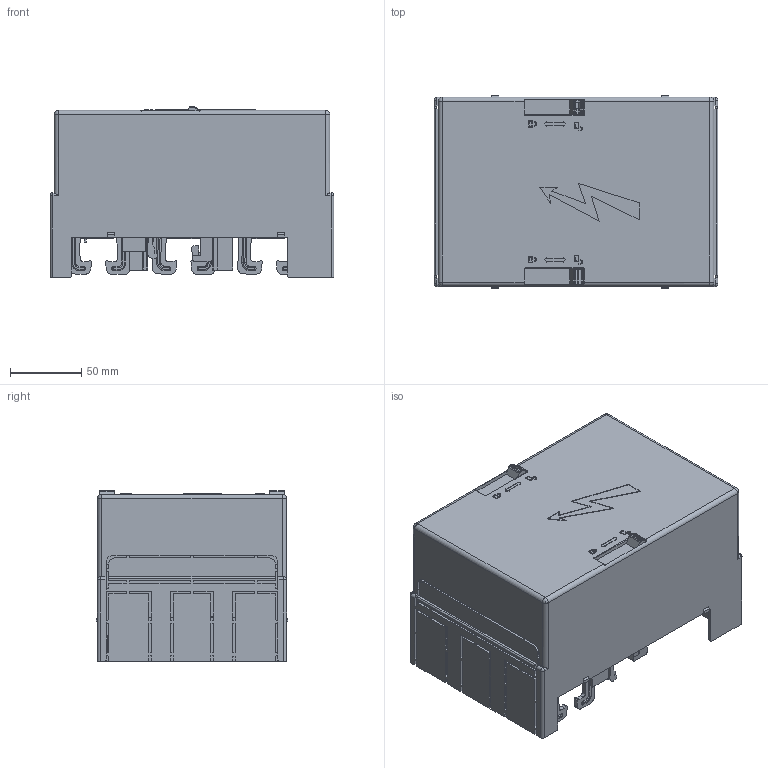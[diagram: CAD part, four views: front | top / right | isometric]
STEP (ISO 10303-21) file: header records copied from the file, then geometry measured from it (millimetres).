
FILE_DESCRIPTION (( 'STEP AP214' ), '1' );
FILE_NAME ('54754-54199珨欴.STEP', '2020-08-05T03:22:40', ( '' ), ( '' ), 'SwSTEP 2.0', 'SolidWorks 2017', '' );
FILE_SCHEMA (( 'AUTOMOTIVE_DESIGN' ));
Length unit declared in the file: millimetre
Products named in the file (1): 54754-54199珨欴
Bounding box: 199.5 x 135 x 120.19 mm (x, y, z)
Surface area: 317530.5 mm2 (no closed solid volume)
Topology: 0 solids, 44 shells, 5342 faces, 23723 edges, 17458 vertices
Faces by surface type: plane 4275, cylinder 702, bspline 320, sphere 32, torus 7, cone 6
Full cylindrical faces by diameter (mm): 0.6 x6, 1 x6, 8.5 x3, 10 x3, 10.5 x3, 13 x3, 16 x3, 19 x3, 22.5 x3
Entity records: 314258 total; most frequent: CARTESIAN_POINT 71077, ORIENTED_EDGE 36725, DIRECTION 33861, EDGE_CURVE 23650, LINE 21183, VECTOR 21183, VERTEX_POINT 17449, AXIS2_PLACEMENT_3D 6339
